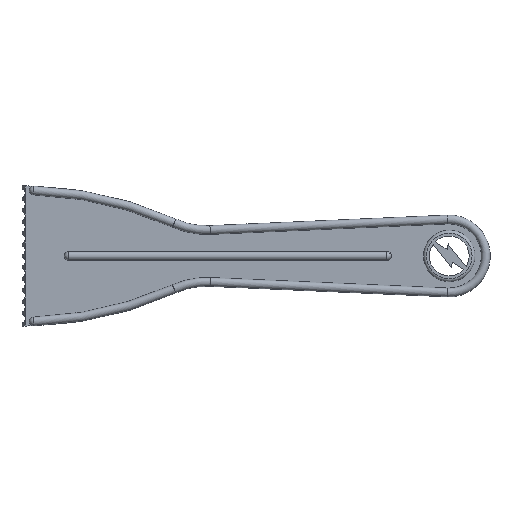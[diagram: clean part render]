
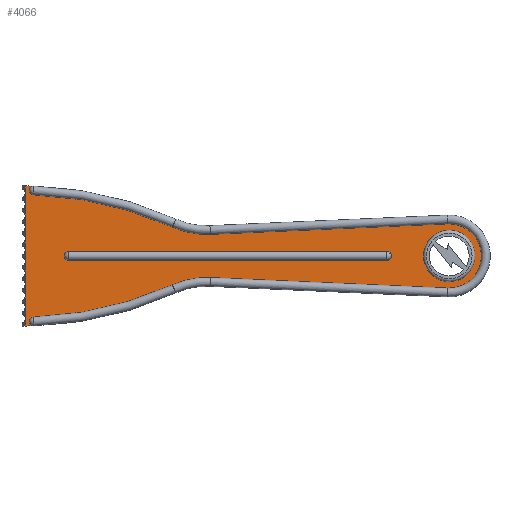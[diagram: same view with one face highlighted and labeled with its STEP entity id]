
A CAD part, top view. The second image highlights one B-rep face of the part: STEP entity #4066.
In plain terms, the highlighted planar face has unit normal (0, 0, 1).
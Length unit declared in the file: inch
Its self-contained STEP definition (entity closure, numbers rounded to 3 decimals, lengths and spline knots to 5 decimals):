
#67=CIRCLE('',#4256,0.275);
#70=CIRCLE('',#4269,0.04688);
#71=CIRCLE('',#4270,3.90625);
#72=CIRCLE('',#4271,0.89375);
#73=CIRCLE('',#4272,0.34375);
#74=CIRCLE('',#4273,0.89375);
#75=CIRCLE('',#4274,3.90625);
#76=CIRCLE('',#4275,0.04688);
#77=CIRCLE('',#4276,4.);
#78=CIRCLE('',#4277,4.);
#79=CIRCLE('',#4278,0.04687);
#80=CIRCLE('',#4279,0.04687);
#163=FACE_BOUND('',#677,.T.);
#164=FACE_BOUND('',#678,.T.);
#244=PLANE('',#4268);
#433=FACE_OUTER_BOUND('',#676,.T.);
#676=EDGE_LOOP('',(#3508,#3509,#3510,#3511,#3512,#3513,#3514,#3515,#3516,
#3517,#3518,#3519,#3520,#3521,#3522,#3523,#3524,#3525,#3526,#3527,#3528,
#3529,#3530,#3531));
#677=EDGE_LOOP('',(#3532,#3533,#3534,#3535));
#678=EDGE_LOOP('',(#3536));
#1038=LINE('',#7104,#1408);
#1039=LINE('',#7108,#1409);
#1040=LINE('',#7118,#1410);
#1041=LINE('',#7120,#1411);
#1042=LINE('',#7122,#1412);
#1043=LINE('',#7124,#1413);
#1044=LINE('',#7126,#1414);
#1045=LINE('',#7128,#1415);
#1046=LINE('',#7130,#1416);
#1047=LINE('',#7132,#1417);
#1048=LINE('',#7134,#1418);
#1049=LINE('',#7136,#1419);
#1050=LINE('',#7138,#1420);
#1051=LINE('',#7140,#1421);
#1052=LINE('',#7142,#1422);
#1053=LINE('',#7146,#1423);
#1054=LINE('',#7150,#1424);
#1408=VECTOR('',#4907,0.3937);
#1409=VECTOR('',#4910,0.3937);
#1410=VECTOR('',#4919,0.3937);
#1411=VECTOR('',#4920,0.3937);
#1412=VECTOR('',#4921,0.3937);
#1413=VECTOR('',#4922,0.3937);
#1414=VECTOR('',#4923,0.3937);
#1415=VECTOR('',#4924,0.3937);
#1416=VECTOR('',#4925,0.3937);
#1417=VECTOR('',#4926,0.3937);
#1418=VECTOR('',#4927,0.3937);
#1419=VECTOR('',#4928,0.3937);
#1420=VECTOR('',#4929,0.3937);
#1421=VECTOR('',#4930,0.3937);
#1422=VECTOR('',#4931,0.3937);
#1423=VECTOR('',#4934,0.3937);
#1424=VECTOR('',#4937,0.3937);
#1940=VERTEX_POINT('',#7059);
#1949=VERTEX_POINT('',#7096);
#1950=VERTEX_POINT('',#7097);
#1951=VERTEX_POINT('',#7099);
#1952=VERTEX_POINT('',#7101);
#1953=VERTEX_POINT('',#7103);
#1954=VERTEX_POINT('',#7105);
#1955=VERTEX_POINT('',#7107);
#1956=VERTEX_POINT('',#7109);
#1957=VERTEX_POINT('',#7111);
#1958=VERTEX_POINT('',#7113);
#1959=VERTEX_POINT('',#7115);
#1960=VERTEX_POINT('',#7117);
#1961=VERTEX_POINT('',#7119);
#1962=VERTEX_POINT('',#7121);
#1963=VERTEX_POINT('',#7123);
#1964=VERTEX_POINT('',#7125);
#1965=VERTEX_POINT('',#7127);
#1966=VERTEX_POINT('',#7129);
#1967=VERTEX_POINT('',#7131);
#1968=VERTEX_POINT('',#7133);
#1969=VERTEX_POINT('',#7135);
#1970=VERTEX_POINT('',#7137);
#1971=VERTEX_POINT('',#7139);
#1972=VERTEX_POINT('',#7141);
#1973=VERTEX_POINT('',#7144);
#1974=VERTEX_POINT('',#7145);
#1975=VERTEX_POINT('',#7147);
#1976=VERTEX_POINT('',#7149);
#2467=EDGE_CURVE('',#1940,#1940,#67,.T.);
#2484=EDGE_CURVE('',#1949,#1950,#70,.T.);
#2485=EDGE_CURVE('',#1950,#1951,#71,.T.);
#2486=EDGE_CURVE('',#1951,#1952,#72,.T.);
#2487=EDGE_CURVE('',#1952,#1953,#1038,.T.);
#2488=EDGE_CURVE('',#1953,#1954,#73,.T.);
#2489=EDGE_CURVE('',#1954,#1955,#1039,.T.);
#2490=EDGE_CURVE('',#1955,#1956,#74,.T.);
#2491=EDGE_CURVE('',#1956,#1957,#75,.T.);
#2492=EDGE_CURVE('',#1957,#1958,#76,.T.);
#2493=EDGE_CURVE('',#1958,#1959,#77,.T.);
#2494=EDGE_CURVE('',#1960,#1959,#1040,.T.);
#2495=EDGE_CURVE('',#1961,#1960,#1041,.T.);
#2496=EDGE_CURVE('',#1962,#1961,#1042,.T.);
#2497=EDGE_CURVE('',#1963,#1962,#1043,.T.);
#2498=EDGE_CURVE('',#1964,#1963,#1044,.T.);
#2499=EDGE_CURVE('',#1965,#1964,#1045,.T.);
#2500=EDGE_CURVE('',#1966,#1965,#1046,.T.);
#2501=EDGE_CURVE('',#1967,#1966,#1047,.T.);
#2502=EDGE_CURVE('',#1968,#1967,#1048,.T.);
#2503=EDGE_CURVE('',#1969,#1968,#1049,.T.);
#2504=EDGE_CURVE('',#1970,#1969,#1050,.T.);
#2505=EDGE_CURVE('',#1971,#1970,#1051,.T.);
#2506=EDGE_CURVE('',#1972,#1971,#1052,.T.);
#2507=EDGE_CURVE('',#1972,#1949,#78,.T.);
#2508=EDGE_CURVE('',#1973,#1974,#1053,.T.);
#2509=EDGE_CURVE('',#1974,#1975,#79,.T.);
#2510=EDGE_CURVE('',#1975,#1976,#1054,.T.);
#2511=EDGE_CURVE('',#1976,#1973,#80,.T.);
#3508=ORIENTED_EDGE('',*,*,#2484,.T.);
#3509=ORIENTED_EDGE('',*,*,#2485,.T.);
#3510=ORIENTED_EDGE('',*,*,#2486,.T.);
#3511=ORIENTED_EDGE('',*,*,#2487,.T.);
#3512=ORIENTED_EDGE('',*,*,#2488,.T.);
#3513=ORIENTED_EDGE('',*,*,#2489,.T.);
#3514=ORIENTED_EDGE('',*,*,#2490,.T.);
#3515=ORIENTED_EDGE('',*,*,#2491,.T.);
#3516=ORIENTED_EDGE('',*,*,#2492,.T.);
#3517=ORIENTED_EDGE('',*,*,#2493,.T.);
#3518=ORIENTED_EDGE('',*,*,#2494,.F.);
#3519=ORIENTED_EDGE('',*,*,#2495,.F.);
#3520=ORIENTED_EDGE('',*,*,#2496,.F.);
#3521=ORIENTED_EDGE('',*,*,#2497,.F.);
#3522=ORIENTED_EDGE('',*,*,#2498,.F.);
#3523=ORIENTED_EDGE('',*,*,#2499,.F.);
#3524=ORIENTED_EDGE('',*,*,#2500,.F.);
#3525=ORIENTED_EDGE('',*,*,#2501,.F.);
#3526=ORIENTED_EDGE('',*,*,#2502,.F.);
#3527=ORIENTED_EDGE('',*,*,#2503,.F.);
#3528=ORIENTED_EDGE('',*,*,#2504,.F.);
#3529=ORIENTED_EDGE('',*,*,#2505,.F.);
#3530=ORIENTED_EDGE('',*,*,#2506,.F.);
#3531=ORIENTED_EDGE('',*,*,#2507,.T.);
#3532=ORIENTED_EDGE('',*,*,#2508,.T.);
#3533=ORIENTED_EDGE('',*,*,#2509,.T.);
#3534=ORIENTED_EDGE('',*,*,#2510,.T.);
#3535=ORIENTED_EDGE('',*,*,#2511,.T.);
#3536=ORIENTED_EDGE('',*,*,#2467,.T.);
#4066=ADVANCED_FACE('',(#433,#163,#164),#244,.T.);
#4256=AXIS2_PLACEMENT_3D('',#7061,#4861,#4862);
#4268=AXIS2_PLACEMENT_3D('',#7095,#4899,#4900);
#4269=AXIS2_PLACEMENT_3D('',#7098,#4901,#4902);
#4270=AXIS2_PLACEMENT_3D('',#7100,#4903,#4904);
#4271=AXIS2_PLACEMENT_3D('',#7102,#4905,#4906);
#4272=AXIS2_PLACEMENT_3D('',#7106,#4908,#4909);
#4273=AXIS2_PLACEMENT_3D('',#7110,#4911,#4912);
#4274=AXIS2_PLACEMENT_3D('',#7112,#4913,#4914);
#4275=AXIS2_PLACEMENT_3D('',#7114,#4915,#4916);
#4276=AXIS2_PLACEMENT_3D('',#7116,#4917,#4918);
#4277=AXIS2_PLACEMENT_3D('',#7143,#4932,#4933);
#4278=AXIS2_PLACEMENT_3D('',#7148,#4935,#4936);
#4279=AXIS2_PLACEMENT_3D('',#7151,#4938,#4939);
#4861=DIRECTION('center_axis',(0.,0.,-1.));
#4862=DIRECTION('ref_axis',(1.,0.,0.));
#4899=DIRECTION('center_axis',(0.,0.,1.));
#4900=DIRECTION('ref_axis',(1.,0.,0.));
#4901=DIRECTION('center_axis',(0.,0.,-1.));
#4902=DIRECTION('ref_axis',(-0.032,1.,0.));
#4903=DIRECTION('center_axis',(0.,0.,1.));
#4904=DIRECTION('ref_axis',(-0.016,1.,0.));
#4905=DIRECTION('center_axis',(0.,0.,-1.));
#4906=DIRECTION('ref_axis',(0.044,0.999,0.));
#4907=DIRECTION('',(0.999,-0.044,0.));
#4908=DIRECTION('center_axis',(0.,0.,1.));
#4909=DIRECTION('ref_axis',(0.044,0.999,0.));
#4910=DIRECTION('',(-0.999,-0.044,0.));
#4911=DIRECTION('center_axis',(0.,0.,-1.));
#4912=DIRECTION('ref_axis',(-0.412,-0.911,0.));
#4913=DIRECTION('center_axis',(0.,0.,1.));
#4914=DIRECTION('ref_axis',(-0.412,-0.911,0.));
#4915=DIRECTION('center_axis',(0.,0.,-1.));
#4916=DIRECTION('ref_axis',(0.032,0.999,0.));
#4917=DIRECTION('center_axis',(0.,0.,1.));
#4918=DIRECTION('ref_axis',(0.412,0.911,0.));
#4919=DIRECTION('',(0.,1.,0.));
#4920=DIRECTION('',(0.,1.,0.));
#4921=DIRECTION('',(0.,1.,0.));
#4922=DIRECTION('',(0.,1.,0.));
#4923=DIRECTION('',(0.,1.,0.));
#4924=DIRECTION('',(0.,1.,0.));
#4925=DIRECTION('',(0.,1.,0.));
#4926=DIRECTION('',(0.,1.,0.));
#4927=DIRECTION('',(0.,1.,0.));
#4928=DIRECTION('',(0.,1.,0.));
#4929=DIRECTION('',(0.,1.,0.));
#4930=DIRECTION('',(0.,1.,0.));
#4931=DIRECTION('',(0.,1.,0.));
#4932=DIRECTION('center_axis',(0.,0.,1.));
#4933=DIRECTION('ref_axis',(0.,-1.,0.));
#4934=DIRECTION('',(1.,0.,0.));
#4935=DIRECTION('center_axis',(0.,0.,-1.));
#4936=DIRECTION('ref_axis',(0.,-1.,0.));
#4937=DIRECTION('',(-1.,0.,0.));
#4938=DIRECTION('center_axis',(0.,0.,-1.));
#4939=DIRECTION('ref_axis',(0.,1.,0.));
#7059=CARTESIAN_POINT('',(-0.375,0.,0.));
#7061=CARTESIAN_POINT('Origin',(-0.1,0.,0.));
#7095=CARTESIAN_POINT('Origin',(-2.16831,0.,
0.));
#7096=CARTESIAN_POINT('',(-4.54764,-0.748,0.));
#7097=CARTESIAN_POINT('',(-4.5506,-0.6543,0.));
#7098=CARTESIAN_POINT('Origin',(-4.54912,-0.70115,0.));
#7099=CARTESIAN_POINT('',(-3.06572,-0.30975,0.));
#7100=CARTESIAN_POINT('Origin',(-4.67412,3.25,0.));
#7101=CARTESIAN_POINT('',(-2.65837,-0.23134,0.));
#7102=CARTESIAN_POINT('Origin',(-2.69772,-1.12422,0.));
#7103=CARTESIAN_POINT('',(-0.11513,-0.34342,0.));
#7104=CARTESIAN_POINT('',(-1.14728,-0.29793,0.));
#7105=CARTESIAN_POINT('',(-0.11513,0.34342,0.));
#7106=CARTESIAN_POINT('Origin',(-0.1,0.,0.));
#7107=CARTESIAN_POINT('',(-2.65837,0.23134,0.));
#7108=CARTESIAN_POINT('',(-2.4189,0.24189,0.));
#7109=CARTESIAN_POINT('',(-3.06572,0.30975,0.));
#7110=CARTESIAN_POINT('Origin',(-2.69772,1.12422,0.));
#7111=CARTESIAN_POINT('',(-4.5506,0.6543,0.));
#7112=CARTESIAN_POINT('Origin',(-4.67412,-3.25,0.));
#7113=CARTESIAN_POINT('',(-4.54764,0.748,0.));
#7114=CARTESIAN_POINT('Origin',(-4.54912,0.70115,0.));
#7115=CARTESIAN_POINT('',(-4.63804,0.74984,0.));
#7116=CARTESIAN_POINT('Origin',(-4.67412,-3.25,0.));
#7117=CARTESIAN_POINT('',(-4.63804,0.67188,0.));
#7118=CARTESIAN_POINT('',(-4.63804,-0.375,0.));
#7119=CARTESIAN_POINT('',(-4.63804,0.54972,0.));
#7120=CARTESIAN_POINT('',(-4.63804,-0.375,0.));
#7121=CARTESIAN_POINT('',(-4.63804,0.42756,0.));
#7122=CARTESIAN_POINT('',(-4.63804,-0.375,0.));
#7123=CARTESIAN_POINT('',(-4.63804,0.3054,0.));
#7124=CARTESIAN_POINT('',(-4.63804,-0.375,0.));
#7125=CARTESIAN_POINT('',(-4.63804,0.18324,0.));
#7126=CARTESIAN_POINT('',(-4.63804,-0.375,0.));
#7127=CARTESIAN_POINT('',(-4.63804,0.06108,0.));
#7128=CARTESIAN_POINT('',(-4.63804,-0.375,0.));
#7129=CARTESIAN_POINT('',(-4.63804,-0.06108,0.));
#7130=CARTESIAN_POINT('',(-4.63804,-0.375,0.));
#7131=CARTESIAN_POINT('',(-4.63804,-0.18324,0.));
#7132=CARTESIAN_POINT('',(-4.63804,-0.375,0.));
#7133=CARTESIAN_POINT('',(-4.63804,-0.3054,0.));
#7134=CARTESIAN_POINT('',(-4.63804,-0.375,0.));
#7135=CARTESIAN_POINT('',(-4.63804,-0.42756,0.));
#7136=CARTESIAN_POINT('',(-4.63804,-0.375,0.));
#7137=CARTESIAN_POINT('',(-4.63804,-0.54972,0.));
#7138=CARTESIAN_POINT('',(-4.63804,-0.375,0.));
#7139=CARTESIAN_POINT('',(-4.63804,-0.67188,0.));
#7140=CARTESIAN_POINT('',(-4.63804,-0.375,0.));
#7141=CARTESIAN_POINT('',(-4.63804,-0.74984,0.));
#7142=CARTESIAN_POINT('',(-4.63804,-0.375,0.));
#7143=CARTESIAN_POINT('Origin',(-4.67412,3.25,0.));
#7144=CARTESIAN_POINT('',(-4.17412,0.04688,0.));
#7145=CARTESIAN_POINT('',(-0.76787,0.04688,0.));
#7146=CARTESIAN_POINT('',(-1.46809,0.04688,0.));
#7147=CARTESIAN_POINT('',(-0.76787,-0.04687,0.));
#7148=CARTESIAN_POINT('Origin',(-0.76787,0.,
0.));
#7149=CARTESIAN_POINT('',(-4.17412,-0.04687,0.));
#7150=CARTESIAN_POINT('',(-3.17122,-0.04687,0.));
#7151=CARTESIAN_POINT('Origin',(-4.17412,0.,
0.));
